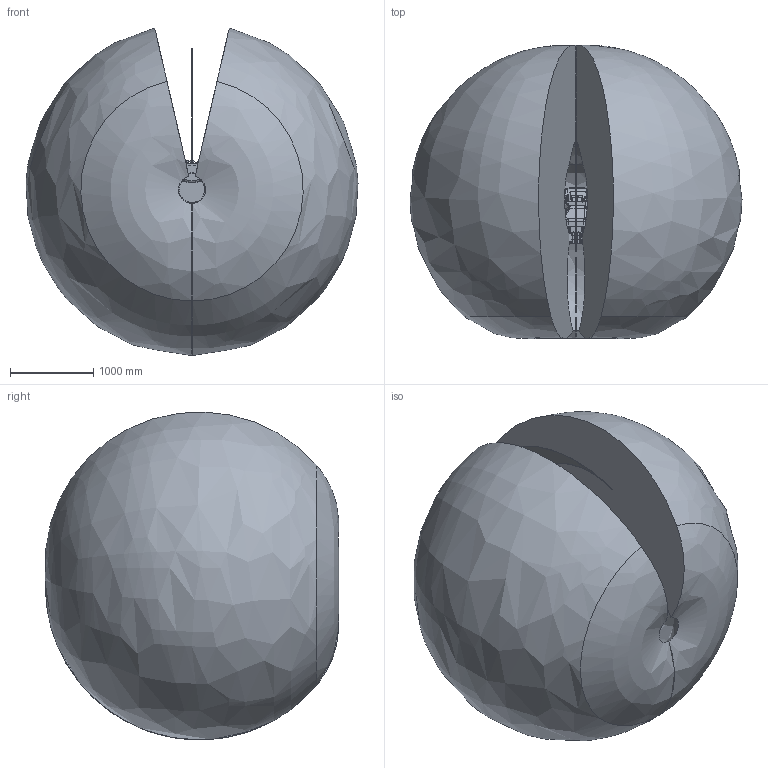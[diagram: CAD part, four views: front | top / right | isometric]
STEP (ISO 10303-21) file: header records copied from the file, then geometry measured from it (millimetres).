
FILE_DESCRIPTION((''),'2;1');
FILE_NAME('R10-2000_ASM','2023-10-06T08:44:22',('zty'),(''),'CREO PARAMETRIC BY PTC INC, 2018260','CREO PARAMETRIC BY PTC INC, 2018260','');
FILE_SCHEMA(('CONFIG_CONTROL_DESIGN','SHAPE_APPEARANCE_LAYERS_GROUPS'));
Products named in the file (11): R10-2000_BASE; R10-2000_JOINT1; R10-2000_JOINT2; R10-2000_JOINT3; R10-2000_JOINT4; R10-2000_JOINT5; R10-2000_JOINT6; R10-2000_CABLE; R10-2000_RANGE; R10-2000_RANGE_2; R10-2000_ASM
Assembly tree (10 placements, depth 2):
  R10-2000_ASM
    R10-2000_BASE
    R10-2000_JOINT1
    R10-2000_JOINT2
    R10-2000_JOINT3
    R10-2000_JOINT4
    R10-2000_JOINT5
    R10-2000_JOINT6
    R10-2000_CABLE
    R10-2000_RANGE
    R10-2000_RANGE_2
Bounding box: 3999.83 x 3532.71 x 3950.68 mm (x, y, z)
Volume: 28073296175.6 mm3; surface area: 77333654 mm2
Topology: 10 solids, 15 shells, 6680 faces, 16784 edges, 10150 vertices
Faces by surface type: cylinder 1953, bspline 1610, plane 1593, torus 1009, cone 425, sphere 87, extrusion 3
Entity records: 279813 total; most frequent: CARTESIAN_POINT 133078, ORIENTED_EDGE 33214, DIRECTION 27553, EDGE_CURVE 16607, AXIS2_PLACEMENT_3D 11127, VERTEX_POINT 10148, EDGE_LOOP 6955, FACE_OUTER_BOUND 6680
